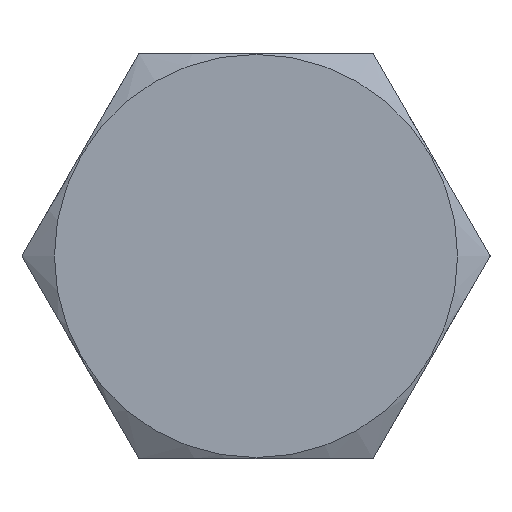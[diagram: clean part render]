
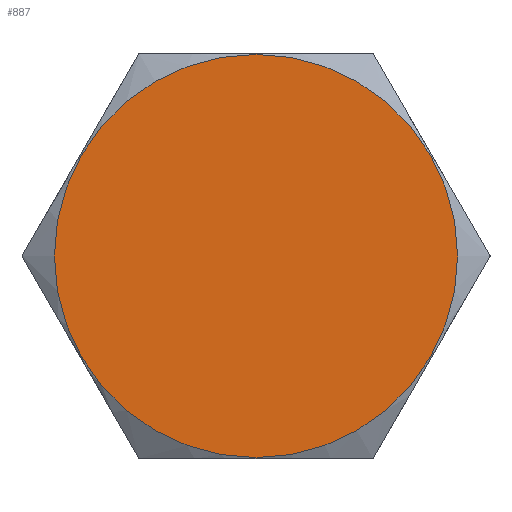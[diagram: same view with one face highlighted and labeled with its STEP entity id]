
A CAD part, front view. The second image highlights one B-rep face of the part: STEP entity #887.
In plain terms, the highlighted planar face has unit normal (0, -1, 0).
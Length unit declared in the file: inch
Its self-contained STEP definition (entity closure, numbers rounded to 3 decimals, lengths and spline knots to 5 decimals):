
#57=PLANE('',#1020);
#198=FACE_OUTER_BOUND('',#253,.T.);
#253=EDGE_LOOP('',(#764));
#319=CIRCLE('',#1017,0.373);
#419=VERTEX_POINT('',#1701);
#538=EDGE_CURVE('',#419,#419,#319,.T.);
#764=ORIENTED_EDGE('',*,*,#538,.F.);
#887=ADVANCED_FACE('',(#198),#57,.T.);
#1017=AXIS2_PLACEMENT_3D('',#1702,#1246,#1247);
#1020=AXIS2_PLACEMENT_3D('',#1706,#1253,#1254);
#1246=DIRECTION('center_axis',(0.,1.,0.));
#1247=DIRECTION('ref_axis',(0.,0.,1.));
#1253=DIRECTION('center_axis',(0.,-1.,0.));
#1254=DIRECTION('ref_axis',(0.,0.,-1.));
#1701=CARTESIAN_POINT('',(0.,0.,-0.373));
#1702=CARTESIAN_POINT('Origin',(0.,0.,0.));
#1706=CARTESIAN_POINT('Origin',(0.,0.,0.));
